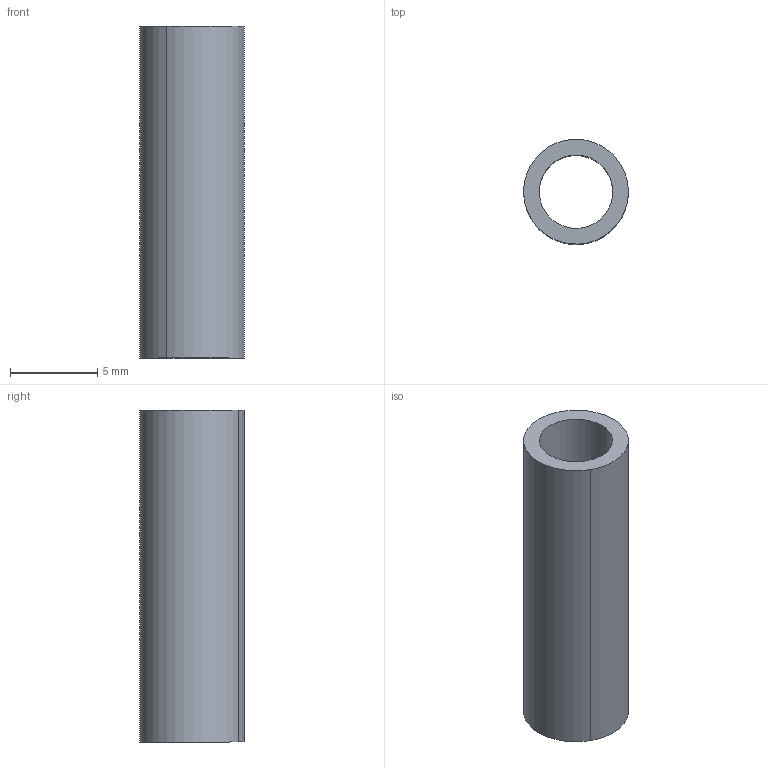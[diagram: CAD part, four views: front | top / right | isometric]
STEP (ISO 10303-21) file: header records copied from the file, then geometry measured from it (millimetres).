
FILE_DESCRIPTION(('Open CASCADE Model'),'2;1');
FILE_NAME('Open CASCADE Shape Model','2024-07-16T17:08:54',('Author'),( 'Open CASCADE'),'Open CASCADE STEP processor 6.5','Open CASCADE 6.5' ,'Unknown');
FILE_SCHEMA(('AUTOMOTIVE_DESIGN { 1 0 10303 214 1 1 1 1 }'));
Length unit declared in the file: millimetre
Products named in the file (7): CADSOFTTOOLS 3; CADSOFTTOOLS 3.1; CADSOFTTOOLS 3.2; CADSOFTTOOLS 3.3; CADSOFTTOOLS 3.4; CADSOFTTOOLS 3.5; CADSOFTTOOLS 3.6
Assembly tree (6 placements, depth 2):
  CADSOFTTOOLS 3
    CADSOFTTOOLS 3.1
    CADSOFTTOOLS 3.2
    CADSOFTTOOLS 3.3
    CADSOFTTOOLS 3.4
    CADSOFTTOOLS 3.5
    CADSOFTTOOLS 3.6
Bounding box: 6 x 6 x 19 mm (x, y, z)
Surface area: 637.7 mm2 (no closed solid volume)
Topology: 0 solids, 6 shells, 6 faces, 24 edges, 24 vertices
Faces by surface type: cylinder 4, plane 2
Entity records: 755 total; most frequent: CARTESIAN_POINT 308, DIRECTION 74, AXIS2_PLACEMENT_3D 29, ORIENTED_EDGE 24, EDGE_CURVE 24, VERTEX_POINT 24, SURFACE_CURVE 24, PCURVE 24
